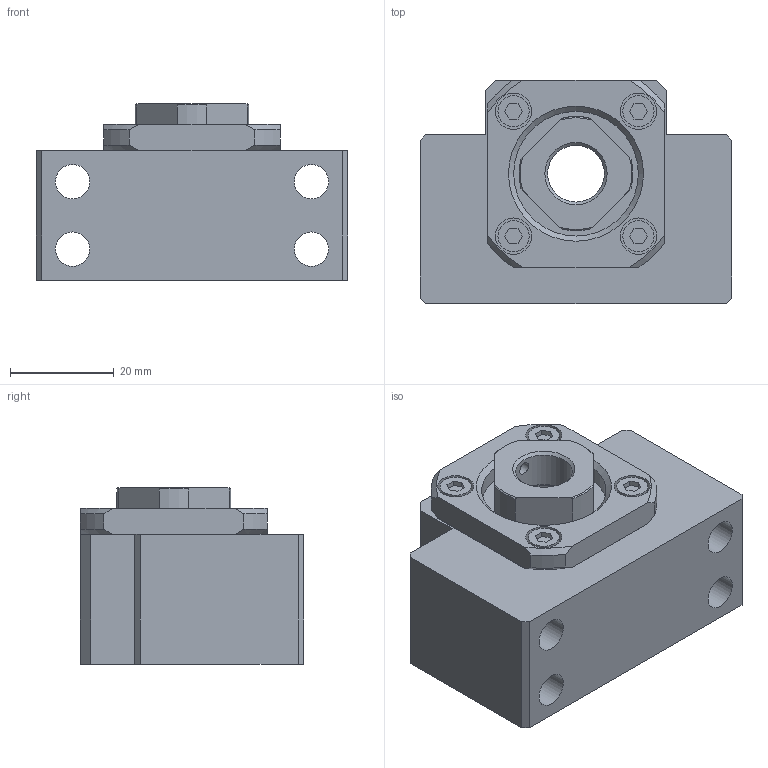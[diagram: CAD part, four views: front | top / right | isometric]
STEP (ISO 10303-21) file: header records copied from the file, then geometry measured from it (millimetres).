
FILE_DESCRIPTION(/* description */ ('STEP AP203'),/* implementation_level */ '2;1');
FILE_NAME(/* name */ 'BK12Yes',/* time_stamp */ '2025-06-11T07:06:13+02:00',/* author */ ('License CC BY-ND 4.0'),/* organization */ ('CADENAS'),/* preprocessor_version */ 'ST-DEVELOPER v19.3',/* originating_system */ 'PARTsolutions',/* authorisation */ ' ');
FILE_SCHEMA (('CONFIG_CONTROL_DESIGN'));
Length unit declared in the file: millimetre
Products named in the file (4): BK12Yes; BK 12; BK 12collar; RN 12
Assembly tree (4 placements, depth 2):
  BK12Yes
    BK 12
    BK 12collar  x2
    RN 12
Bounding box: 60 x 43 x 34 mm (x, y, z)
Volume: 55688 mm3; surface area: 20516.8 mm2
Topology: 4 solids, 4 shells, 153 faces, 356 edges, 237 vertices
Faces by surface type: plane 94, cylinder 38, cone 21
Full cylindrical faces by diameter (mm): 2.459 x1, 3 x1, 6 x4, 6.6 x4, 7 x4, 10.8 x4, 10.917 x1, 12 x3, 14.9 x4, 17 x1, 24 x2, 24.1 x1
Entity records: 4267 total; most frequent: CARTESIAN_POINT 836, DIRECTION 678, ORIENTED_EDGE 626, EDGE_CURVE 313, AXIS2_PLACEMENT_3D 253, VERTEX_POINT 229, EDGE_LOOP 222, FACE_BOUND 222
